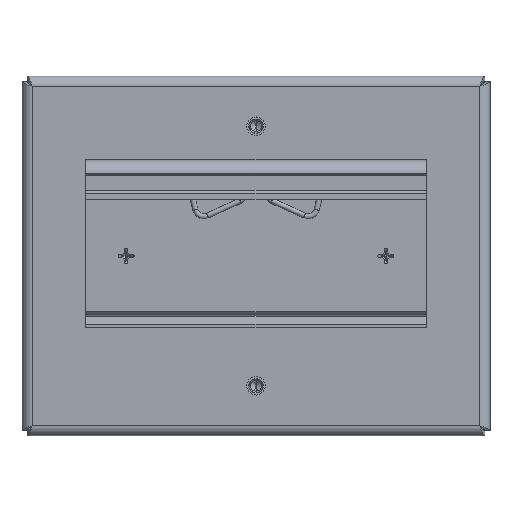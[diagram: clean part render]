
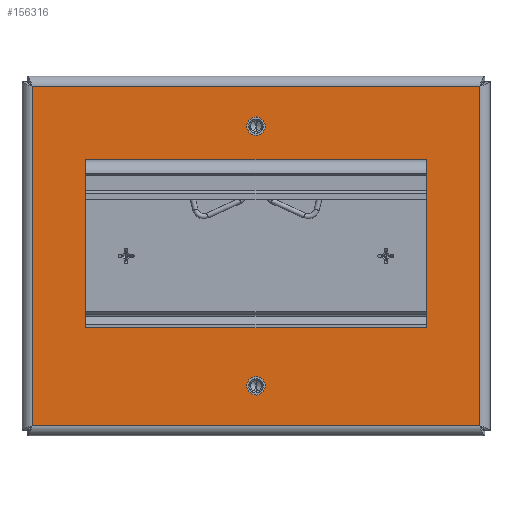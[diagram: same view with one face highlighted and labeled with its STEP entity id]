
A CAD part, front view. The second image highlights one B-rep face of the part: STEP entity #156316.
In plain terms, the highlighted planar face has unit normal (0, -1, 0).
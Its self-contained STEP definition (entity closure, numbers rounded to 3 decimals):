
#54682=DIRECTION('',(1.,0.,0.));
#54683=VECTOR('',#54682,131.369);
#54684=CARTESIAN_POINT('',(-65.684,-20.286,49.809));
#54685=LINE('',#54684,#54683);
#54715=CARTESIAN_POINT('',(0.,-20.286,-38.1));
#54716=DIRECTION('',(0.,1.,0.));
#54717=DIRECTION('',(0.,0.,1.));
#54718=AXIS2_PLACEMENT_3D('',#54715,#54716,#54717);
#54720=CARTESIAN_POINT('',(0.,-20.286,-38.1));
#54721=DIRECTION('',(0.,1.,0.));
#54722=DIRECTION('',(0.,0.,-1.));
#54723=AXIS2_PLACEMENT_3D('',#54720,#54721,#54722);
#54725=CARTESIAN_POINT('',(0.,-20.286,38.1));
#54726=DIRECTION('',(0.,1.,0.));
#54727=DIRECTION('',(0.,0.,1.));
#54728=AXIS2_PLACEMENT_3D('',#54725,#54726,#54727);
#54730=CARTESIAN_POINT('',(0.,-20.286,38.1));
#54731=DIRECTION('',(0.,1.,0.));
#54732=DIRECTION('',(0.,0.,-1.));
#54733=AXIS2_PLACEMENT_3D('',#54730,#54731,#54732);
#54735=DIRECTION('',(0.,0.,-1.));
#54736=VECTOR('',#54735,49.276);
#54737=CARTESIAN_POINT('',(50.,-20.286,28.245));
#54738=LINE('',#54737,#54736);
#54739=DIRECTION('',(-1.,0.,0.));
#54740=VECTOR('',#54739,100.);
#54741=CARTESIAN_POINT('',(50.,-20.286,28.245));
#54742=LINE('',#54741,#54740);
#54743=DIRECTION('',(0.,0.,-1.));
#54744=VECTOR('',#54743,49.276);
#54745=CARTESIAN_POINT('',(-50.,-20.286,28.245));
#54746=LINE('',#54745,#54744);
#54747=DIRECTION('',(-1.,0.,0.));
#54748=VECTOR('',#54747,100.);
#54749=CARTESIAN_POINT('',(50.,-20.286,-21.031));
#54750=LINE('',#54749,#54748);
#54780=DIRECTION('',(0.,0.,-1.));
#54781=VECTOR('',#54780,99.619);
#54782=CARTESIAN_POINT('',(65.684,-20.286,49.809));
#54783=LINE('',#54782,#54781);
#54886=DIRECTION('',(-1.,0.,0.));
#54887=VECTOR('',#54886,131.369);
#54888=CARTESIAN_POINT('',(65.684,-20.286,-49.809));
#54889=LINE('',#54888,#54887);
#54917=CARTESIAN_POINT('',(65.684,-20.286,-49.809));
#54992=DIRECTION('',(0.,0.,1.));
#54993=VECTOR('',#54992,99.619);
#54994=CARTESIAN_POINT('',(-65.684,-20.286,-49.809));
#54995=LINE('',#54994,#54993);
#70656=VERTEX_POINT('',#54917);
#70657=CARTESIAN_POINT('',(-65.684,-20.286,-49.809));
#70658=VERTEX_POINT('',#70657);
#70677=CARTESIAN_POINT('',(65.684,-20.286,49.809));
#70678=VERTEX_POINT('',#70677);
#70679=CARTESIAN_POINT('',(-65.684,-20.286,49.809));
#70680=VERTEX_POINT('',#70679);
#70733=CARTESIAN_POINT('',(0.,-20.286,-35.395));
#70734=CARTESIAN_POINT('',(0.,-20.286,-40.805));
#70735=VERTEX_POINT('',#70733);
#70736=VERTEX_POINT('',#70734);
#70737=CARTESIAN_POINT('',(0.,-20.286,40.805));
#70738=CARTESIAN_POINT('',(0.,-20.286,35.395));
#70739=VERTEX_POINT('',#70737);
#70740=VERTEX_POINT('',#70738);
#71425=CARTESIAN_POINT('',(50.,-20.286,28.245));
#71426=CARTESIAN_POINT('',(50.,-20.286,-21.031));
#71427=VERTEX_POINT('',#71425);
#71428=VERTEX_POINT('',#71426);
#71429=CARTESIAN_POINT('',(-50.,-20.286,28.245));
#71430=CARTESIAN_POINT('',(-50.,-20.286,-21.031));
#71431=VERTEX_POINT('',#71429);
#71432=VERTEX_POINT('',#71430);
#156280=CARTESIAN_POINT('',(0.,-20.286,0.));
#156281=DIRECTION('',(0.,1.,0.));
#156282=DIRECTION('',(1.,0.,0.));
#156283=AXIS2_PLACEMENT_3D('',#156280,#156281,#156282);
#156284=PLANE('',#156283);
#156285=ORIENTED_EDGE('',*,*,#156267,.T.);
#156287=ORIENTED_EDGE('',*,*,#156286,.T.);
#156289=ORIENTED_EDGE('',*,*,#156288,.T.);
#156291=ORIENTED_EDGE('',*,*,#156290,.T.);
#156292=EDGE_LOOP('',(#156285,#156287,#156289,#156291));
#156293=FACE_OUTER_BOUND('',#156292,.F.);
#156295=ORIENTED_EDGE('',*,*,#156294,.F.);
#156297=ORIENTED_EDGE('',*,*,#156296,.F.);
#156298=EDGE_LOOP('',(#156295,#156297));
#156299=FACE_BOUND('',#156298,.F.);
#156301=ORIENTED_EDGE('',*,*,#156300,.F.);
#156303=ORIENTED_EDGE('',*,*,#156302,.F.);
#156304=EDGE_LOOP('',(#156301,#156303));
#156305=FACE_BOUND('',#156304,.F.);
#156307=ORIENTED_EDGE('',*,*,#156306,.F.);
#156309=ORIENTED_EDGE('',*,*,#156308,.T.);
#156311=ORIENTED_EDGE('',*,*,#156310,.T.);
#156313=ORIENTED_EDGE('',*,*,#156312,.F.);
#156314=EDGE_LOOP('',(#156307,#156309,#156311,#156313));
#156315=FACE_BOUND('',#156314,.F.);
#54719=CIRCLE('',#54718,2.705);
#54724=CIRCLE('',#54723,2.705);
#54729=CIRCLE('',#54728,2.705);
#54734=CIRCLE('',#54733,2.705);
#156267=EDGE_CURVE('',#70680,#70678,#54685,.T.);
#156286=EDGE_CURVE('',#70678,#70656,#54783,.T.);
#156288=EDGE_CURVE('',#70656,#70658,#54889,.T.);
#156290=EDGE_CURVE('',#70658,#70680,#54995,.T.);
#156294=EDGE_CURVE('',#70735,#70736,#54719,.T.);
#156296=EDGE_CURVE('',#70736,#70735,#54724,.T.);
#156300=EDGE_CURVE('',#70739,#70740,#54729,.T.);
#156302=EDGE_CURVE('',#70740,#70739,#54734,.T.);
#156306=EDGE_CURVE('',#71427,#71428,#54738,.T.);
#156308=EDGE_CURVE('',#71427,#71431,#54742,.T.);
#156310=EDGE_CURVE('',#71431,#71432,#54746,.T.);
#156312=EDGE_CURVE('',#71428,#71432,#54750,.T.);
#156316=ADVANCED_FACE('',(#156293,#156299,#156305,#156315),#156284,.F.);
